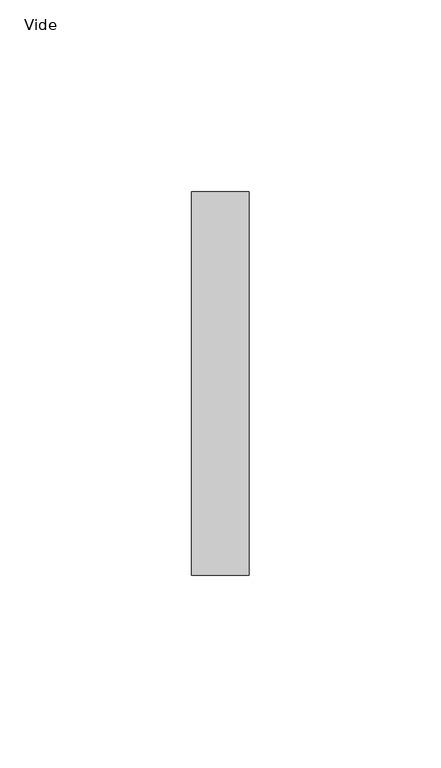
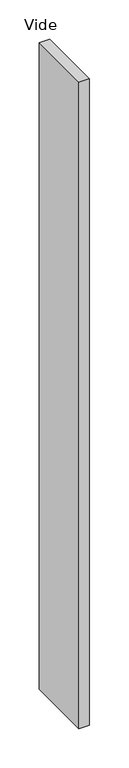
"""IFC4 building model written with IfcOpenShell, lengths in millimetres: plate geometry, Panneau système vide : Vide."""

import ifcopenshell
import ifcopenshell.guid

model = None  # the IFC model being written
_history = None  # IfcOwnerHistory: only IFC2X3 demands one
_inside = {}  # id of a spatial element -> (the spatial element, [elements in it])
_under = {}  # id of a project, library or spatial element -> (it, [spatial elements below it])
_declared = {}  # id of a project -> (the project, [libraries it declares])
_typed = {}  # id of a type object -> (the type object, [elements of that type])
_made_of = {}  # id of a material, layer set ... -> (it, [elements and type objects made of it])


def new_model(schema):
    """Start an empty IFC model of exactly this schema.

    Asked for "IFC4X3", IfcOpenShell would pick the latest addendum, in which some entities
    have other attributes; the version numbers below select the first issue.
    IFC2X3 requires an IfcOwnerHistory on every rooted entity: one is made here for all.
    """
    global model, _history
    if schema == "IFC4X3":
        model = ifcopenshell.file(schema_version=(4, 3, 0, 0))
    else:
        model = ifcopenshell.file(schema=schema)
    _inside.clear()
    _under.clear()
    _declared.clear()
    _typed.clear()
    _made_of.clear()
    _history = None
    if model.schema == "IFC2X3":
        org = make("IfcOrganization", Name="unknown")
        user = make(
            "IfcPersonAndOrganization",
            ThePerson=make("IfcPerson", FamilyName="unknown"),
            TheOrganization=org,
        )
        app = make(
            "IfcApplication",
            ApplicationDeveloper=org,
            Version="unknown",
            ApplicationFullName="unknown",
            ApplicationIdentifier="unknown",
        )
        _history = make(
            "IfcOwnerHistory",
            OwningUser=user,
            OwningApplication=app,
            ChangeAction="ADDED",
            CreationDate=0,
        )
    return model


def make(cls, **values):
    """One entity of the class cls with the attributes given. An attribute that is None is left unset."""
    return model.create_entity(
        cls, **{name: value for name, value in values.items() if value is not None}
    )


def rooted(cls, **values):
    """An entity with a GlobalId (a new one), such as an element, a storey or a relation."""
    return make(cls, GlobalId=ifcopenshell.guid.new(), OwnerHistory=_history, **values)


def si_unit(unit_type, name, prefix=None):
    """IfcSIUnit, for example si_unit("LENGTHUNIT", "METRE", prefix="MILLI")."""
    return make("IfcSIUnit", UnitType=unit_type, Prefix=prefix, Name=name)


def assignment(units):
    """IfcUnitAssignment: the units of a project."""
    return None if units is None else make("IfcUnitAssignment", Units=units)


def point(xyz):
    """IfcCartesianPoint."""
    return None if xyz is None else make("IfcCartesianPoint", Coordinates=xyz)


def direction(xyz):
    """IfcDirection."""
    return None if xyz is None else make("IfcDirection", DirectionRatios=xyz)


def frame(location, z_axis=None, x_axis=None):
    """IfcAxis2Placement3D, a coordinate frame: its origin and axes. An axis left out is left unset."""
    return make(
        "IfcAxis2Placement3D",
        Location=point(location),
        Axis=direction(z_axis),
        RefDirection=direction(x_axis),
    )


def origin():
    """The frame at (0, 0, 0) with its axes left unset."""
    return frame((0.0, 0.0, 0.0))


def origin_with_axes():
    """The frame at (0, 0, 0) with the z axis (0, 0, 1) and the x axis (1, 0, 0) written out."""
    return frame((0.0, 0.0, 0.0), z_axis=(0.0, 0.0, 1.0), x_axis=(1.0, 0.0, 0.0))


def place(relative_to, where):
    """IfcLocalPlacement: puts the frame where relative to a parent placement (None: the world)."""
    return make(
        "IfcLocalPlacement", PlacementRelTo=relative_to, RelativePlacement=where
    )


def context(
    kind, dimensions, precision=None, world=None, true_north=None, identifier=None
):
    """IfcGeometricRepresentationContext, for example the 3D "Model" context."""
    return make(
        "IfcGeometricRepresentationContext",
        ContextIdentifier=identifier,
        ContextType=kind,
        CoordinateSpaceDimension=dimensions,
        Precision=precision,
        WorldCoordinateSystem=world,
        TrueNorth=true_north,
    )


def project(units=None, contexts=None):
    """IfcProject with its units and contexts."""
    return rooted(
        "IfcProject",
        Name="project",
        RepresentationContexts=contexts,
        UnitsInContext=assignment(units),
    )


def spatial(cls, under=None, at=None, **own):
    """A site, building, storey or space (cls), placed at a placement, below another one or the project."""
    s = rooted(cls, ObjectPlacement=at, **own)
    if under is not None:
        _under.setdefault(under.id(), (under, []))[1].append(s)
    return s


def polyline(points):
    """IfcPolyline through the points."""
    return make("IfcPolyline", Points=[point(p) for p in points])


def outline(outer, holes=None, kind="AREA"):
    """IfcArbitraryClosedProfileDef: a profile drawn as a closed curve; with holes, ...WithVoids."""
    if holes is None:
        return make("IfcArbitraryClosedProfileDef", ProfileType=kind, OuterCurve=outer)
    return make(
        "IfcArbitraryProfileDefWithVoids",
        ProfileType=kind,
        OuterCurve=outer,
        InnerCurves=holes,
    )


def extrude(swept, where, along, depth):
    """IfcExtrudedAreaSolid: the profile swept, set in the frame where, extruded along a direction by depth."""
    return make(
        "IfcExtrudedAreaSolid",
        SweptArea=swept,
        Position=where,
        ExtrudedDirection=direction(along),
        Depth=depth,
    )


def shape(context_of_items, identifier, shape_type, items):
    """IfcShapeRepresentation: the items that make up one representation, for example the "Body"."""
    return make(
        "IfcShapeRepresentation",
        ContextOfItems=context_of_items,
        RepresentationIdentifier=identifier,
        RepresentationType=shape_type,
        Items=items,
    )


def source(mapping_origin, context_of_items, identifier, shape_type, items):
    """IfcRepresentationMap: a shape defined once, which mapped items show again and again."""
    return make(
        "IfcRepresentationMap",
        MappingOrigin=mapping_origin,
        MappedRepresentation=shape(context_of_items, identifier, shape_type, items),
    )


def transform(
    local_origin,
    x_axis=None,
    y_axis=None,
    z_axis=None,
    scale=None,
    scale2=None,
    scale3=None,
    uniform=True,
):
    """IfcCartesianTransformationOperator3D, or its non-uniform kind. x_axis, y_axis, z_axis: its Axis1, 2, 3."""
    if uniform:
        return make(
            "IfcCartesianTransformationOperator3D",
            Axis1=direction(x_axis),
            Axis2=direction(y_axis),
            LocalOrigin=point(local_origin),
            Scale=scale,
            Axis3=direction(z_axis),
        )
    return make(
        "IfcCartesianTransformationOperator3DnonUniform",
        Axis1=direction(x_axis),
        Axis2=direction(y_axis),
        LocalOrigin=point(local_origin),
        Scale=scale,
        Axis3=direction(z_axis),
        Scale2=scale2,
        Scale3=scale3,
    )


def mapped(mapping_source, mapping_target):
    """IfcMappedItem: shows the shape of a source again, moved by a transform."""
    return make(
        "IfcMappedItem", MappingSource=mapping_source, MappingTarget=mapping_target
    )


def made_of(thing, what):
    """Note that an element or type object is made of a material, layer set ...; save() writes the relation."""
    if what is not None:
        _made_of.setdefault(what.id(), (what, []))[1].append(thing)
    return thing


def element(
    cls,
    number,
    at=None,
    inside=None,
    cuts=None,
    type_object=None,
    material=None,
    context=None,
    identifier="Body",
    shape_type=None,
    held_by="IfcProductDefinitionShape",
    body=None,
    shapes=None,
    **own,
):
    """One element of the class cls, such as IfcWall. Its Tag is "e" and its number.

    at: its placement. inside: the storey or other place that contains it. cuts: it is an
    opening in that element (IfcRelVoidsElement). A single representation is given by context,
    identifier, shape_type and body (its items); several are given by shapes. held_by: the class
    of the entity that holds the representations. save() writes the other relations.
    """
    e = rooted(cls, Tag="e%d" % number, ObjectPlacement=at, **own)
    if body is not None:
        shapes = [shape(context, identifier, shape_type, body)]
    if shapes is not None:
        e.Representation = make(held_by, Representations=shapes)
    if inside is not None:
        _inside.setdefault(inside.id(), (inside, []))[1].append(e)
    if cuts is not None:
        rooted(
            "IfcRelVoidsElement", RelatingBuildingElement=cuts, RelatedOpeningElement=e
        )
    if type_object is not None:
        _typed.setdefault(type_object.id(), (type_object, []))[1].append(e)
    return made_of(e, material)


def aggregate(whole, parts):
    """IfcRelAggregates: a whole, such as a stair, and the parts it consists of."""
    return rooted("IfcRelAggregates", RelatingObject=whole, RelatedObjects=parts)


def save(model, path):
    """Write the relations noted so far, then the file.

    IfcRelAggregates (storeys below a building ...), IfcRelContainedInSpatialStructure (elements
    in a storey), IfcRelDefinesByType, IfcRelAssociatesMaterial and IfcRelDeclares: one each for
    every whole, place, type object, material and project.
    """
    for whole, parts in _under.values():
        aggregate(whole, parts)
    for where, things in _inside.values():
        rooted(
            "IfcRelContainedInSpatialStructure",
            RelatedElements=things,
            RelatingStructure=where,
        )
    for kind, things in _typed.values():
        rooted("IfcRelDefinesByType", RelatedObjects=things, RelatingType=kind)
    for what, things in _made_of.values():
        rooted("IfcRelAssociatesMaterial", RelatedObjects=things, RelatingMaterial=what)
    for by, libraries in _declared.values():
        rooted("IfcRelDeclares", RelatingContext=by, RelatedDefinitions=libraries)
    model.write(path)


def vide_6520434d(model_context):
    return source(origin(), model_context, "Body", "SweptSolid", [
        extrude(outline(polyline([(7.4999998, 50.0), (-7.4999998, 50.0), (-7.4999998, 150.0), (7.4999998, 150.0), (7.4999998, 50.0)])), origin_with_axes(), (0.0, 0.0, 1.0), 1000.0),
    ])


if __name__ == "__main__":
    model = new_model("IFC4")
    model_context = context("Model", 3, world=origin())
    ifc_project = project(units=[si_unit("LENGTHUNIT", "METRE", prefix="MILLI")], contexts=[model_context])
    site = spatial("IfcSite", under=ifc_project)
    building = spatial("IfcBuilding", under=site)
    placement = place(None, origin())
    vide_shape = vide_6520434d(model_context)
    element("IfcPlate", 1, ObjectType="Panneau système vide : Vide", at=placement, inside=building, context=model_context, shape_type="MappedRepresentation", body=[
        mapped(vide_shape, transform((0.0, 0.0, 0.0), x_axis=(1.0, 0.0, 0.0), y_axis=(0.0, 1.0, 0.0), z_axis=(0.0, 0.0, 1.0))),
    ])
    save(model, "model.ifc")
